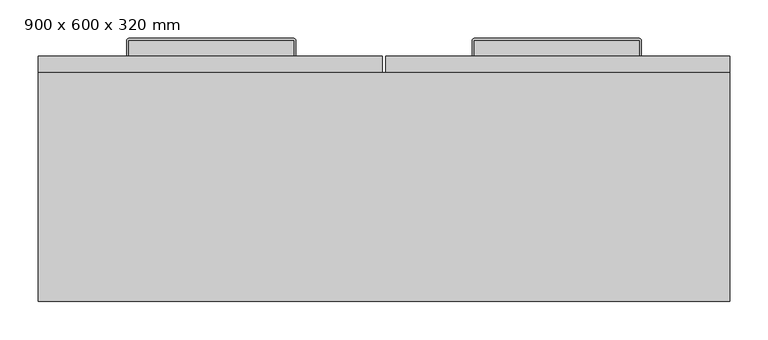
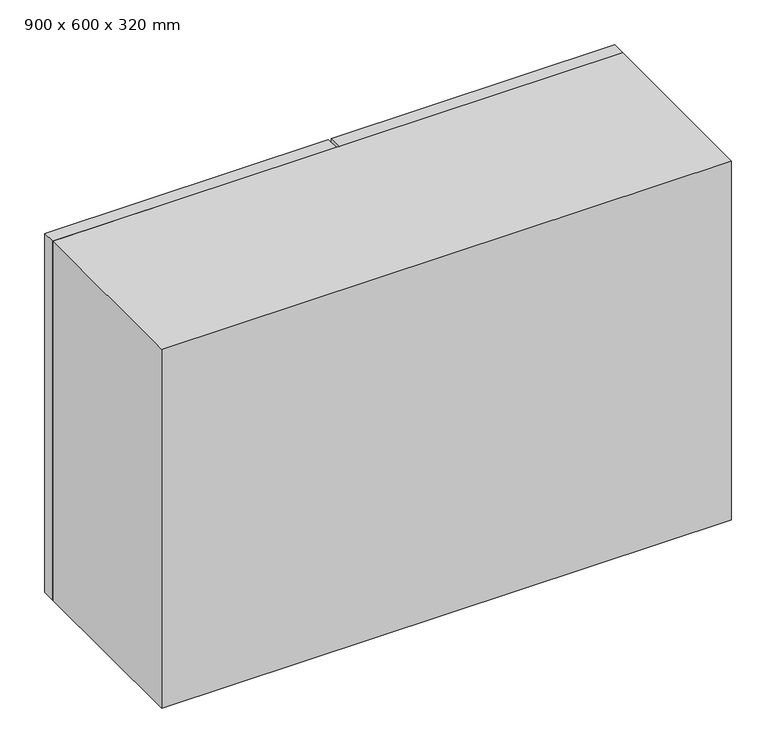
"""IFC4 building model written with IfcOpenShell, lengths in millimetres: furniture geometry, Armario superior - Puerta doble : 900 x 600 x 320 mm."""

from ifc_helpers import new_model, si_unit, point, frame, frame_2d, origin, place, context, project, spatial, polyline, circle_curve, trimmed, segment, composite_curve, outline, extrude, faceted_brep, source, transform, mapped, element, save


def furniture_900_x_600_x_320_mm_ed7ff752(model_context):
    return source(origin(), model_context, "Body", "SolidModel", [
        extrude(outline(composite_curve([segment(polyline([(-158.0, 390.0), (-158.0, 410.5)]), True, "CONTINUOUS"), segment(trimmed(circle_curve(frame_2d((-157.5, 410.5)), 0.5), [point((-158.0, 410.5))], [point((-157.5, 411.0))], False, "CARTESIAN"), True, "CONTINUOUS"), segment(polyline([(-157.5, 411.0), (57.5, 411.0)]), True, "CONTINUOUS"), segment(trimmed(circle_curve(frame_2d((57.5, 410.5)), 0.5), [point((57.5, 411.0))], [point((58.0, 410.5))], False, "CARTESIAN"), True, "CONTINUOUS"), segment(polyline([(58.0, 410.5), (58.0, 390.0), (-158.0, 390.0)]), True, "CONTINUOUS")], self_intersect=False)), frame((0.0, 0.0, 1449.765389), z_axis=(0.0, 0.0, 1.0), x_axis=(1.0, 0.0, 0.0)), (0.0, 0.0, 1.0), 6.4890959),
        extrude(outline(composite_curve([segment(polyline([(-160.0, 390.0), (-160.0, 410.5)]), True, "CONTINUOUS"), segment(trimmed(circle_curve(frame_2d((-157.5, 410.5)), 2.5), [point((-160.0, 410.5))], [point((-157.5, 413.0))], False, "CARTESIAN"), True, "CONTINUOUS"), segment(polyline([(-157.5, 413.0), (57.5, 413.0)]), True, "CONTINUOUS"), segment(trimmed(circle_curve(frame_2d((57.5, 410.5)), 2.5), [point((57.5, 413.0))], [point((60.0, 410.5))], False, "CARTESIAN"), True, "CONTINUOUS"), segment(polyline([(60.0, 410.5), (60.0, 390.0), (58.0, 390.0), (58.0, 410.5)]), True, "CONTINUOUS"), segment(trimmed(circle_curve(frame_2d((57.5, 410.5)), 0.5), [point((58.0, 410.5))], [point((57.5, 411.0))], True, "CARTESIAN"), True, "CONTINUOUS"), segment(polyline([(57.5, 411.0), (-157.5, 411.0)]), True, "CONTINUOUS"), segment(trimmed(circle_curve(frame_2d((-157.5, 410.5)), 0.5), [point((-157.5, 411.0))], [point((-158.0, 410.5))], True, "CARTESIAN"), True, "CONTINUOUS"), segment(polyline([(-158.0, 410.5), (-158.0, 390.0), (-160.0, 390.0)]), True, "CONTINUOUS")], self_intersect=False)), frame((0.0, 0.0, 1447.0), z_axis=(0.0, 0.0, 1.0), x_axis=(1.0, 0.0, 0.0)), (0.0, 0.0, 1.0), 12.0),
        extrude(outline(composite_curve([segment(polyline([(292.0, 390.0), (292.0, 410.5)]), True, "CONTINUOUS"), segment(trimmed(circle_curve(frame_2d((292.5, 410.5)), 0.5), [point((292.0, 410.5))], [point((292.5, 411.0))], False, "CARTESIAN"), True, "CONTINUOUS"), segment(polyline([(292.5, 411.0), (507.5, 411.0)]), True, "CONTINUOUS"), segment(trimmed(circle_curve(frame_2d((507.5, 410.5)), 0.5), [point((507.5, 411.0))], [point((508.0, 410.5))], False, "CARTESIAN"), True, "CONTINUOUS"), segment(polyline([(508.0, 410.5), (508.0, 390.0), (292.0, 390.0)]), True, "CONTINUOUS")], self_intersect=False)), frame((0.0, 0.0, 1449.765389), z_axis=(0.0, 0.0, 1.0), x_axis=(1.0, 0.0, 0.0)), (0.0, 0.0, 1.0), 6.4890959),
        extrude(outline(composite_curve([segment(polyline([(290.0, 390.0), (290.0, 410.5)]), True, "CONTINUOUS"), segment(trimmed(circle_curve(frame_2d((292.5, 410.5)), 2.5), [point((290.0, 410.5))], [point((292.5, 413.0))], False, "CARTESIAN"), True, "CONTINUOUS"), segment(polyline([(292.5, 413.0), (507.5, 413.0)]), True, "CONTINUOUS"), segment(trimmed(circle_curve(frame_2d((507.5, 410.5)), 2.5), [point((507.5, 413.0))], [point((510.0, 410.5))], False, "CARTESIAN"), True, "CONTINUOUS"), segment(polyline([(510.0, 410.5), (510.0, 390.0), (508.0, 390.0), (508.0, 410.5)]), True, "CONTINUOUS"), segment(trimmed(circle_curve(frame_2d((507.5, 410.5)), 0.5), [point((508.0, 410.5))], [point((507.5, 411.0))], True, "CARTESIAN"), True, "CONTINUOUS"), segment(polyline([(507.5, 411.0), (292.5, 411.0)]), True, "CONTINUOUS"), segment(trimmed(circle_curve(frame_2d((292.5, 410.5)), 0.5), [point((292.5, 411.0))], [point((292.0, 410.5))], True, "CARTESIAN"), True, "CONTINUOUS"), segment(polyline([(292.0, 410.5), (292.0, 390.0), (290.0, 390.0)]), True, "CONTINUOUS")], self_intersect=False)), frame((0.0, 0.0, 1447.0), z_axis=(0.0, 0.0, 1.0), x_axis=(1.0, 0.0, 0.0)), (0.0, 0.0, 1.0), 12.0),
        faceted_brep([(603.0, 368.0, 1422.0), (-253.0, 368.0, 1422.0), (-253.0, 92.0, 1422.0), (603.0, 92.0, 1422.0), (625.0, 368.0, 1400.0), (625.0, 70.0, 1400.0), (-275.0, 70.0, 1400.0), (-275.0, 368.0, 1400.0), (-275.0, 368.0, 2000.0), (625.0, 368.0, 2000.0), (603.0, 368.0, 1978.0), (-253.0, 368.0, 1978.0), (-275.0, 70.0, 2000.0), (625.0, 70.0, 2000.0), (603.0, 92.0, 1978.0), (-253.0, 92.0, 1978.0)], [[[0, 1, 2, 3]], [[4, 5, 6, 7]], [[8, 9, 4, 7], [0, 10, 11, 1]], [[8, 7, 6, 12]], [[12, 6, 5, 13]], [[13, 5, 4, 9]], [[10, 0, 3, 14]], [[14, 3, 2, 15]], [[1, 11, 15, 2]], [[9, 8, 12, 13]], [[11, 10, 14, 15]]]),
        extrude(outline(polyline([(177.0, 390.0), (625.0, 390.0), (625.0, 368.0), (177.0, 368.0), (177.0, 390.0)])), frame((0.0, 0.0, 1400.0), z_axis=(0.0, 0.0, 1.0), x_axis=(1.0, 0.0, 0.0)), (0.0, 0.0, 1.0), 600.0),
        extrude(outline(polyline([(-275.0, 390.0), (173.0, 390.0), (173.0, 368.0), (-275.0, 368.0), (-275.0, 390.0)])), frame((0.0, 0.0, 1400.0), z_axis=(0.0, 0.0, 1.0), x_axis=(1.0, 0.0, 0.0)), (0.0, 0.0, 1.0), 600.0),
    ])


if __name__ == "__main__":
    model = new_model("IFC4")
    model_context = context("Model", 3, world=origin())
    ifc_project = project(units=[si_unit("LENGTHUNIT", "METRE", prefix="MILLI")], contexts=[model_context])
    site = spatial("IfcSite", under=ifc_project)
    building = spatial("IfcBuilding", under=site)
    placement = place(None, origin())
    furniture_900_x_600_x_320_mm_shape = furniture_900_x_600_x_320_mm_ed7ff752(model_context)
    element("IfcFurniture", 1, ObjectType="Armario superior - Puerta doble : 900 x 600 x 320 mm", at=placement, inside=building, context=model_context, shape_type="MappedRepresentation", body=[
        mapped(furniture_900_x_600_x_320_mm_shape, transform((0.0, 0.0, 0.0), x_axis=(1.0, 0.0, 0.0), y_axis=(0.0, 1.0, 0.0), z_axis=(0.0, 0.0, 1.0))),
    ])
    save(model, "model.ifc")
